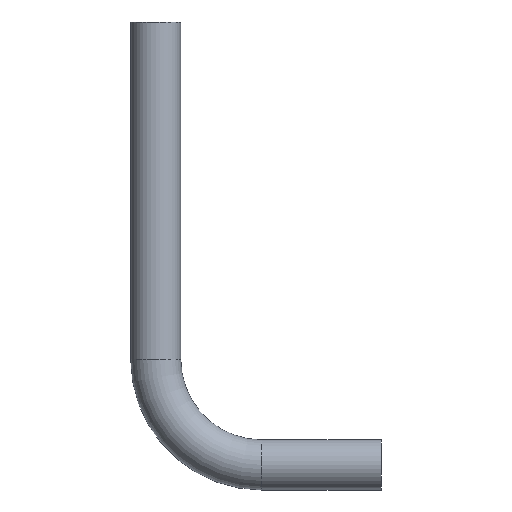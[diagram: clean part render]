
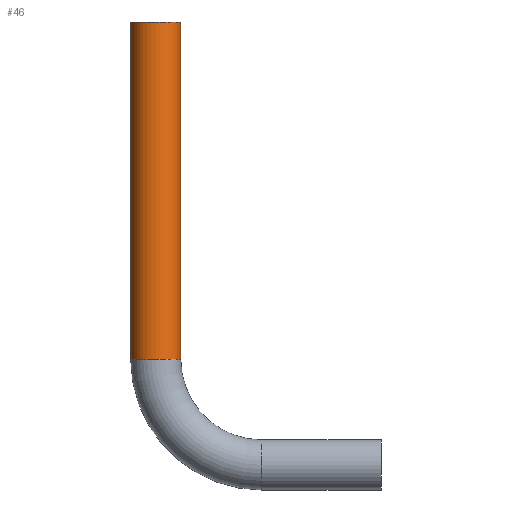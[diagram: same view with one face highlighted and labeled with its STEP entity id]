
A CAD part, top view. The second image highlights one B-rep face of the part: STEP entity #46.
In plain terms, the highlighted cylindrical face has radius 45 mm (diameter 90 mm), a partial arc.
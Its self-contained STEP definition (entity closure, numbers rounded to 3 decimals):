
#1 = AXIS2_PLACEMENT_3D ( 'NONE', #233, #237, #229 ) ;
#7 = DIRECTION ( 'NONE',  ( 0., 0., -1. ) ) ;
#8 = DIRECTION ( 'NONE',  ( 0., -1., 0. ) ) ;
#9 = CARTESIAN_POINT ( 'NONE',  ( -405., 795., 0. ) ) ;
#12 = LINE ( 'NONE', #19, #262 ) ;
#14 = DIRECTION ( 'NONE',  ( 0., 1., 0. ) ) ;
#16 = DIRECTION ( 'NONE',  ( 0., 0., -1. ) ) ;
#17 = DIRECTION ( 'NONE',  ( 0., -1., 0. ) ) ;
#18 = CARTESIAN_POINT ( 'NONE',  ( -405., 190., 0. ) ) ;
#19 = CARTESIAN_POINT ( 'NONE',  ( -360., 190., 0. ) ) ;
#46 = ADVANCED_FACE ( 'NONE', ( #234 ), #231, .T. ) ;
#52 = EDGE_CURVE ( 'NONE', #357, #356, #222, .T. ) ;
#58 = EDGE_CURVE ( 'NONE', #349, #361, #12, .T. ) ;
#59 = EDGE_CURVE ( 'NONE', #349, #357, #264, .T. ) ;
#61 = EDGE_CURVE ( 'NONE', #361, #356, #267, .T. ) ;
#102 = CARTESIAN_POINT ( 'NONE',  ( -360., 190., 0. ) ) ;
#115 = CARTESIAN_POINT ( 'NONE',  ( -450., 795., 0. ) ) ;
#116 = CARTESIAN_POINT ( 'NONE',  ( -450., 190., 0. ) ) ;
#120 = CARTESIAN_POINT ( 'NONE',  ( -360., 795., 0. ) ) ;
#211 = DIRECTION ( 'NONE',  ( 0., 1., 0. ) ) ;
#220 = CARTESIAN_POINT ( 'NONE',  ( -450., 190., 0. ) ) ;
#222 = LINE ( 'NONE', #220, #256 ) ;
#229 = DIRECTION ( 'NONE',  ( -1., 0., 0. ) ) ;
#231 = CYLINDRICAL_SURFACE ( 'NONE', #1, 45. ) ;
#233 = CARTESIAN_POINT ( 'NONE',  ( -405., 190., 0. ) ) ;
#234 = FACE_OUTER_BOUND ( 'NONE', #372, .T. ) ;
#237 = DIRECTION ( 'NONE',  ( 0., 1., 0. ) ) ;
#256 = VECTOR ( 'NONE', #211, 1000. ) ;
#262 = VECTOR ( 'NONE', #14, 1000. ) ;
#264 = CIRCLE ( 'NONE', #269, 45. ) ;
#267 = CIRCLE ( 'NONE', #273, 45. ) ;
#269 = AXIS2_PLACEMENT_3D ( 'NONE', #18, #17, #16 ) ;
#273 = AXIS2_PLACEMENT_3D ( 'NONE', #9, #8, #7 ) ;
#349 = VERTEX_POINT ( 'NONE', #102 ) ;
#356 = VERTEX_POINT ( 'NONE', #115 ) ;
#357 = VERTEX_POINT ( 'NONE', #116 ) ;
#361 = VERTEX_POINT ( 'NONE', #120 ) ;
#372 = EDGE_LOOP ( 'NONE', ( #394, #395, #396, #397 ) ) ;
#394 = ORIENTED_EDGE ( 'NONE', *, *, #59, .F. ) ;
#395 = ORIENTED_EDGE ( 'NONE', *, *, #58, .T. ) ;
#396 = ORIENTED_EDGE ( 'NONE', *, *, #61, .T. ) ;
#397 = ORIENTED_EDGE ( 'NONE', *, *, #52, .F. ) ;
